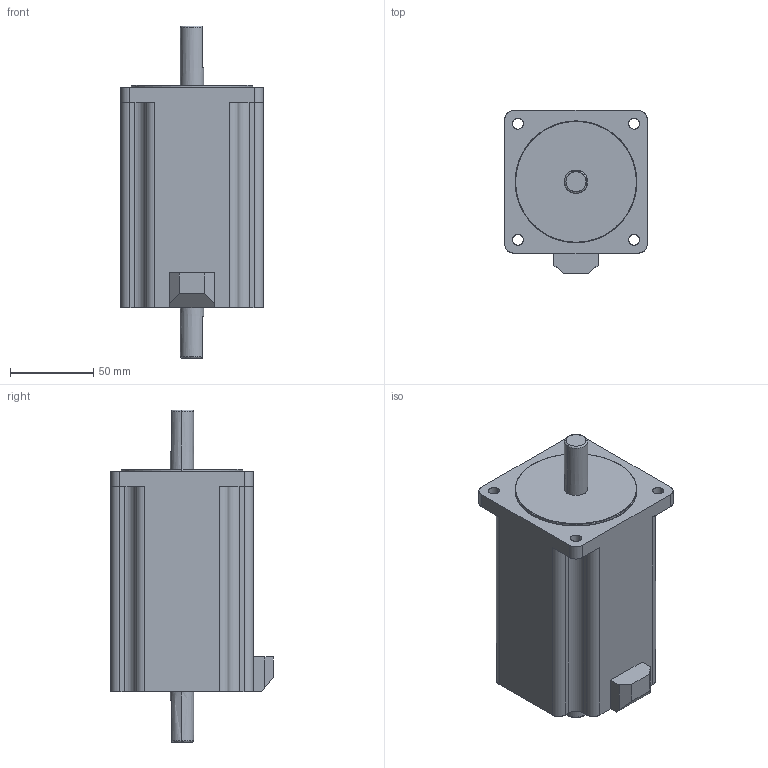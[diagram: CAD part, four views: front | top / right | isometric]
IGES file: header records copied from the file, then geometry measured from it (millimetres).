
Start section: SolidWorks IGES file using analytic representation for surfaces
Bounding box: 85.5 x 97.5 x 199 mm (x, y, z)
Surface area: 62068.8 mm2 (no closed solid volume)
Topology: 0 solids, 0 shells, 80 faces, 1502 edges, 1502 vertices
Faces by surface type: bspline 44, revolution 36
